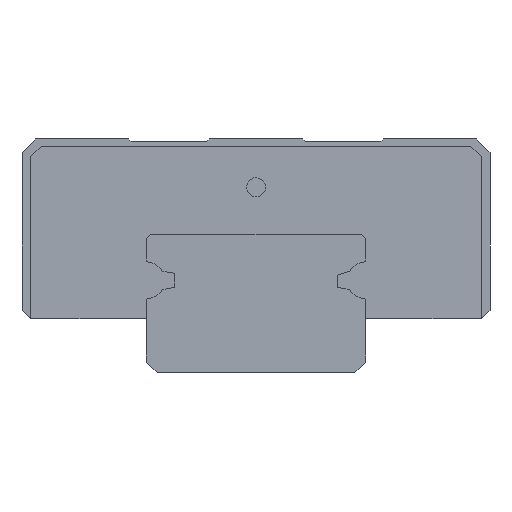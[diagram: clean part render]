
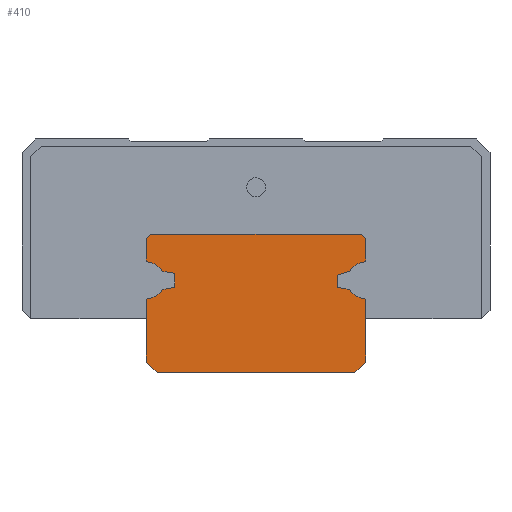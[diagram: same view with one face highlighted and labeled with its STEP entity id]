
A CAD part, front view. The second image highlights one B-rep face of the part: STEP entity #410.
In plain terms, the highlighted planar face has unit normal (0, -1, 0).
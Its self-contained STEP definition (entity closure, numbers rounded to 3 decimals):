
#251=CIRCLE('',#2553,0.15);
#253=CIRCLE('',#2556,1.25);
#255=CIRCLE('',#2559,0.3);
#257=CIRCLE('',#2563,0.1);
#259=CIRCLE('',#2567,0.1);
#261=CIRCLE('',#2571,0.3);
#263=CIRCLE('',#2574,1.25);
#265=CIRCLE('',#2577,0.15);
#280=CIRCLE('',#2598,0.15);
#282=CIRCLE('',#2601,1.25);
#284=CIRCLE('',#2604,0.3);
#286=CIRCLE('',#2608,0.1);
#288=CIRCLE('',#2612,0.1);
#290=CIRCLE('',#2616,0.3);
#292=CIRCLE('',#2619,1.25);
#294=CIRCLE('',#2622,0.15);
#410=ADVANCED_FACE('',(#630),#539,.F.);
#539=PLANE('',#2641);
#630=FACE_OUTER_BOUND('',#748,.T.);
#748=EDGE_LOOP('',(#1091,#1092,#1093,#1094,#1095,#1096,#1097,#1098,#1099,
#1100,#1101,#1102,#1103,#1104,#1105,#1106,#1107,#1108,#1109,#1110,#1111,
#1112,#1113,#1114,#1115,#1116,#1117,#1118,#1119,#1120,#1121,#1122));
#1091=ORIENTED_EDGE('',*,*,#1933,.F.);
#1092=ORIENTED_EDGE('',*,*,#1937,.T.);
#1093=ORIENTED_EDGE('',*,*,#1915,.F.);
#1094=ORIENTED_EDGE('',*,*,#1912,.F.);
#1095=ORIENTED_EDGE('',*,*,#1909,.F.);
#1096=ORIENTED_EDGE('',*,*,#1906,.F.);
#1097=ORIENTED_EDGE('',*,*,#1903,.F.);
#1098=ORIENTED_EDGE('',*,*,#1900,.F.);
#1099=ORIENTED_EDGE('',*,*,#1897,.F.);
#1100=ORIENTED_EDGE('',*,*,#1894,.F.);
#1101=ORIENTED_EDGE('',*,*,#1891,.F.);
#1102=ORIENTED_EDGE('',*,*,#1888,.F.);
#1103=ORIENTED_EDGE('',*,*,#1885,.F.);
#1104=ORIENTED_EDGE('',*,*,#1882,.F.);
#1105=ORIENTED_EDGE('',*,*,#1879,.F.);
#1106=ORIENTED_EDGE('',*,*,#1876,.F.);
#1107=ORIENTED_EDGE('',*,*,#1873,.F.);
#1108=ORIENTED_EDGE('',*,*,#1857,.F.);
#1109=ORIENTED_EDGE('',*,*,#1854,.F.);
#1110=ORIENTED_EDGE('',*,*,#1851,.F.);
#1111=ORIENTED_EDGE('',*,*,#1848,.F.);
#1112=ORIENTED_EDGE('',*,*,#1845,.F.);
#1113=ORIENTED_EDGE('',*,*,#1842,.F.);
#1114=ORIENTED_EDGE('',*,*,#1839,.F.);
#1115=ORIENTED_EDGE('',*,*,#1836,.F.);
#1116=ORIENTED_EDGE('',*,*,#1833,.F.);
#1117=ORIENTED_EDGE('',*,*,#1830,.F.);
#1118=ORIENTED_EDGE('',*,*,#1827,.F.);
#1119=ORIENTED_EDGE('',*,*,#1824,.F.);
#1120=ORIENTED_EDGE('',*,*,#1821,.F.);
#1121=ORIENTED_EDGE('',*,*,#1819,.F.);
#1122=ORIENTED_EDGE('',*,*,#1938,.T.);
#1575=VERTEX_POINT('',#3580);
#1576=VERTEX_POINT('',#3582);
#1577=VERTEX_POINT('',#3586);
#1579=VERTEX_POINT('',#3592);
#1581=VERTEX_POINT('',#3598);
#1583=VERTEX_POINT('',#3604);
#1585=VERTEX_POINT('',#3610);
#1587=VERTEX_POINT('',#3616);
#1589=VERTEX_POINT('',#3622);
#1591=VERTEX_POINT('',#3628);
#1593=VERTEX_POINT('',#3634);
#1595=VERTEX_POINT('',#3640);
#1597=VERTEX_POINT('',#3646);
#1599=VERTEX_POINT('',#3652);
#1601=VERTEX_POINT('',#3658);
#1616=VERTEX_POINT('',#3690);
#1618=VERTEX_POINT('',#3696);
#1620=VERTEX_POINT('',#3702);
#1622=VERTEX_POINT('',#3708);
#1624=VERTEX_POINT('',#3714);
#1626=VERTEX_POINT('',#3720);
#1628=VERTEX_POINT('',#3726);
#1630=VERTEX_POINT('',#3732);
#1632=VERTEX_POINT('',#3738);
#1634=VERTEX_POINT('',#3744);
#1636=VERTEX_POINT('',#3750);
#1638=VERTEX_POINT('',#3756);
#1640=VERTEX_POINT('',#3762);
#1642=VERTEX_POINT('',#3768);
#1644=VERTEX_POINT('',#3774);
#1661=VERTEX_POINT('',#3809);
#1662=VERTEX_POINT('',#3811);
#1819=EDGE_CURVE('',#1575,#1576,#2149,.T.);
#1821=EDGE_CURVE('',#1576,#1577,#251,.T.);
#1824=EDGE_CURVE('',#1577,#1579,#253,.T.);
#1827=EDGE_CURVE('',#1579,#1581,#255,.T.);
#1830=EDGE_CURVE('',#1581,#1583,#2154,.T.);
#1833=EDGE_CURVE('',#1583,#1585,#257,.T.);
#1836=EDGE_CURVE('',#1585,#1587,#2158,.T.);
#1839=EDGE_CURVE('',#1587,#1589,#259,.T.);
#1842=EDGE_CURVE('',#1589,#1591,#2162,.T.);
#1845=EDGE_CURVE('',#1591,#1593,#261,.T.);
#1848=EDGE_CURVE('',#1593,#1595,#263,.T.);
#1851=EDGE_CURVE('',#1595,#1597,#265,.T.);
#1854=EDGE_CURVE('',#1597,#1599,#2168,.T.);
#1857=EDGE_CURVE('',#1599,#1601,#2171,.T.);
#1873=EDGE_CURVE('',#1601,#1616,#2174,.T.);
#1876=EDGE_CURVE('',#1616,#1618,#2177,.T.);
#1879=EDGE_CURVE('',#1618,#1620,#2180,.T.);
#1882=EDGE_CURVE('',#1620,#1622,#280,.T.);
#1885=EDGE_CURVE('',#1622,#1624,#282,.T.);
#1888=EDGE_CURVE('',#1624,#1626,#284,.T.);
#1891=EDGE_CURVE('',#1626,#1628,#2186,.T.);
#1894=EDGE_CURVE('',#1628,#1630,#286,.T.);
#1897=EDGE_CURVE('',#1630,#1632,#2190,.T.);
#1900=EDGE_CURVE('',#1632,#1634,#288,.T.);
#1903=EDGE_CURVE('',#1634,#1636,#2194,.T.);
#1906=EDGE_CURVE('',#1636,#1638,#290,.T.);
#1909=EDGE_CURVE('',#1638,#1640,#292,.T.);
#1912=EDGE_CURVE('',#1640,#1642,#294,.T.);
#1915=EDGE_CURVE('',#1642,#1644,#2200,.T.);
#1933=EDGE_CURVE('',#1661,#1662,#2205,.T.);
#1937=EDGE_CURVE('',#1661,#1644,#2209,.T.);
#1938=EDGE_CURVE('',#1575,#1662,#2210,.T.);
#2149=LINE('',#3581,#2351);
#2154=LINE('',#3603,#2356);
#2158=LINE('',#3615,#2360);
#2162=LINE('',#3627,#2364);
#2168=LINE('',#3651,#2370);
#2171=LINE('',#3657,#2373);
#2174=LINE('',#3689,#2376);
#2177=LINE('',#3695,#2379);
#2180=LINE('',#3701,#2382);
#2186=LINE('',#3725,#2388);
#2190=LINE('',#3737,#2392);
#2194=LINE('',#3749,#2396);
#2200=LINE('',#3773,#2402);
#2205=LINE('',#3810,#2407);
#2209=LINE('',#3817,#2411);
#2210=LINE('',#3818,#2412);
#2351=VECTOR('',#2829,1.);
#2356=VECTOR('',#2854,1.);
#2360=VECTOR('',#2866,1.);
#2364=VECTOR('',#2878,1.);
#2370=VECTOR('',#2904,1.);
#2373=VECTOR('',#2909,1.);
#2376=VECTOR('',#2940,1.);
#2379=VECTOR('',#2945,1.);
#2382=VECTOR('',#2950,1.);
#2388=VECTOR('',#2976,1.);
#2392=VECTOR('',#2988,1.);
#2396=VECTOR('',#3000,1.);
#2402=VECTOR('',#3026,1.);
#2407=VECTOR('',#3059,1.);
#2411=VECTOR('',#3067,1.);
#2412=VECTOR('',#3068,1.);
#2553=AXIS2_PLACEMENT_3D('',#3585,#2833,#2834);
#2556=AXIS2_PLACEMENT_3D('',#3591,#2840,#2841);
#2559=AXIS2_PLACEMENT_3D('',#3597,#2847,#2848);
#2563=AXIS2_PLACEMENT_3D('',#3609,#2859,#2860);
#2567=AXIS2_PLACEMENT_3D('',#3621,#2871,#2872);
#2571=AXIS2_PLACEMENT_3D('',#3633,#2883,#2884);
#2574=AXIS2_PLACEMENT_3D('',#3639,#2890,#2891);
#2577=AXIS2_PLACEMENT_3D('',#3645,#2897,#2898);
#2598=AXIS2_PLACEMENT_3D('',#3707,#2955,#2956);
#2601=AXIS2_PLACEMENT_3D('',#3713,#2962,#2963);
#2604=AXIS2_PLACEMENT_3D('',#3719,#2969,#2970);
#2608=AXIS2_PLACEMENT_3D('',#3731,#2981,#2982);
#2612=AXIS2_PLACEMENT_3D('',#3743,#2993,#2994);
#2616=AXIS2_PLACEMENT_3D('',#3755,#3005,#3006);
#2619=AXIS2_PLACEMENT_3D('',#3761,#3012,#3013);
#2622=AXIS2_PLACEMENT_3D('',#3767,#3019,#3020);
#2641=AXIS2_PLACEMENT_3D('',#3819,#3069,#3070);
#2829=DIRECTION('',(0.,0.,1.));
#2833=DIRECTION('',(0.,1.,0.));
#2834=DIRECTION('',(1.,0.,0.));
#2840=DIRECTION('',(0.,-1.,0.));
#2841=DIRECTION('',(1.,0.,0.));
#2847=DIRECTION('',(0.,1.,0.));
#2848=DIRECTION('',(1.,0.,0.));
#2854=DIRECTION('',(0.985,0.,0.174));
#2859=DIRECTION('',(0.,-1.,0.));
#2860=DIRECTION('',(1.,0.,0.));
#2866=DIRECTION('',(0.,0.,1.));
#2871=DIRECTION('',(0.,-1.,0.));
#2872=DIRECTION('',(1.,0.,0.));
#2878=DIRECTION('',(-0.985,0.,0.174));
#2883=DIRECTION('',(0.,1.,0.));
#2884=DIRECTION('',(1.,0.,0.));
#2890=DIRECTION('',(0.,-1.,0.));
#2891=DIRECTION('',(1.,0.,0.));
#2897=DIRECTION('',(0.,1.,0.));
#2898=DIRECTION('',(1.,0.,0.));
#2904=DIRECTION('',(0.,0.,1.));
#2909=DIRECTION('',(0.707,0.,0.707));
#2940=DIRECTION('',(1.,0.,0.));
#2945=DIRECTION('',(0.707,0.,-0.707));
#2950=DIRECTION('',(0.,0.,-1.));
#2955=DIRECTION('',(0.,1.,0.));
#2956=DIRECTION('',(1.,0.,0.));
#2962=DIRECTION('',(0.,-1.,0.));
#2963=DIRECTION('',(1.,0.,0.));
#2969=DIRECTION('',(0.,1.,0.));
#2970=DIRECTION('',(1.,0.,0.));
#2976=DIRECTION('',(-0.951,0.,-0.309));
#2981=DIRECTION('',(0.,-1.,0.));
#2982=DIRECTION('',(1.,0.,0.));
#2988=DIRECTION('',(0.,0.,-1.));
#2993=DIRECTION('',(0.,-1.,0.));
#2994=DIRECTION('',(1.,0.,0.));
#3000=DIRECTION('',(0.981,0.,-0.192));
#3005=DIRECTION('',(0.,1.,0.));
#3006=DIRECTION('',(1.,0.,0.));
#3012=DIRECTION('',(0.,-1.,0.));
#3013=DIRECTION('',(1.,0.,0.));
#3019=DIRECTION('',(0.,1.,0.));
#3020=DIRECTION('',(1.,0.,0.));
#3026=DIRECTION('',(0.,0.,-1.));
#3059=DIRECTION('',(-1.,0.,0.));
#3067=DIRECTION('',(0.707,0.,0.707));
#3068=DIRECTION('',(0.707,0.,-0.707));
#3069=DIRECTION('',(0.,1.,0.));
#3070=DIRECTION('',(0.,0.,1.));
#3580=CARTESIAN_POINT('',(-7.5,0.,0.75));
#3581=CARTESIAN_POINT('',(-7.5,0.,0.));
#3582=CARTESIAN_POINT('',(-7.5,0.,4.941));
#3585=CARTESIAN_POINT('',(-7.35,0.,4.941));
#3586=CARTESIAN_POINT('',(-7.366,0.,5.091));
#3591=CARTESIAN_POINT('',(-7.5,0.,6.333));
#3592=CARTESIAN_POINT('',(-6.486,0.,5.602));
#3597=CARTESIAN_POINT('',(-6.243,0.,5.427));
#3598=CARTESIAN_POINT('',(-6.295,0.,5.723));
#3603=CARTESIAN_POINT('',(-6.295,0.,5.723));
#3604=CARTESIAN_POINT('',(-5.638,0.,5.838));
#3609=CARTESIAN_POINT('',(-5.656,0.,5.937));
#3610=CARTESIAN_POINT('',(-5.556,0.,5.937));
#3615=CARTESIAN_POINT('',(-5.556,0.,5.937));
#3616=CARTESIAN_POINT('',(-5.556,0.,6.73));
#3621=CARTESIAN_POINT('',(-5.656,0.,6.73));
#3622=CARTESIAN_POINT('',(-5.638,0.,6.828));
#3627=CARTESIAN_POINT('',(-5.638,0.,6.828));
#3628=CARTESIAN_POINT('',(-6.295,0.,6.944));
#3633=CARTESIAN_POINT('',(-6.243,0.,7.24));
#3634=CARTESIAN_POINT('',(-6.486,0.,7.064));
#3639=CARTESIAN_POINT('',(-7.5,0.,6.333));
#3640=CARTESIAN_POINT('',(-7.366,0.,7.576));
#3645=CARTESIAN_POINT('',(-7.35,0.,7.725));
#3646=CARTESIAN_POINT('',(-7.5,0.,7.725));
#3651=CARTESIAN_POINT('',(-7.5,0.,7.725));
#3652=CARTESIAN_POINT('',(-7.5,0.,9.2));
#3657=CARTESIAN_POINT('',(-7.5,0.,9.2));
#3658=CARTESIAN_POINT('',(-7.2,0.,9.5));
#3689=CARTESIAN_POINT('',(-7.2,0.,9.5));
#3690=CARTESIAN_POINT('',(7.2,0.,9.5));
#3695=CARTESIAN_POINT('',(7.2,0.,9.5));
#3696=CARTESIAN_POINT('',(7.5,0.,9.2));
#3701=CARTESIAN_POINT('',(7.5,0.,9.2));
#3702=CARTESIAN_POINT('',(7.5,0.,7.725));
#3707=CARTESIAN_POINT('',(7.35,0.,7.725));
#3708=CARTESIAN_POINT('',(7.366,0.,7.576));
#3713=CARTESIAN_POINT('',(7.5,0.,6.333));
#3714=CARTESIAN_POINT('',(6.474,0.,7.048));
#3719=CARTESIAN_POINT('',(6.228,0.,7.219));
#3720=CARTESIAN_POINT('',(6.321,0.,6.934));
#3725=CARTESIAN_POINT('',(6.321,0.,6.934));
#3726=CARTESIAN_POINT('',(5.625,0.,6.707));
#3731=CARTESIAN_POINT('',(5.656,0.,6.612));
#3732=CARTESIAN_POINT('',(5.556,0.,6.612));
#3737=CARTESIAN_POINT('',(5.556,0.,6.612));
#3738=CARTESIAN_POINT('',(5.556,0.,5.952));
#3743=CARTESIAN_POINT('',(5.656,0.,5.952));
#3744=CARTESIAN_POINT('',(5.636,0.,5.854));
#3749=CARTESIAN_POINT('',(5.636,0.,5.854));
#3750=CARTESIAN_POINT('',(6.298,0.,5.724));
#3755=CARTESIAN_POINT('',(6.241,0.,5.43));
#3756=CARTESIAN_POINT('',(6.484,0.,5.605));
#3761=CARTESIAN_POINT('',(7.5,0.,6.333));
#3762=CARTESIAN_POINT('',(7.366,0.,5.091));
#3767=CARTESIAN_POINT('',(7.35,0.,4.941));
#3768=CARTESIAN_POINT('',(7.5,0.,4.941));
#3773=CARTESIAN_POINT('',(7.5,0.,4.941));
#3774=CARTESIAN_POINT('',(7.5,0.,0.75));
#3809=CARTESIAN_POINT('',(6.75,0.,0.));
#3810=CARTESIAN_POINT('',(7.5,0.,0.));
#3811=CARTESIAN_POINT('',(-6.75,0.,0.));
#3817=CARTESIAN_POINT('',(6.75,0.,0.));
#3818=CARTESIAN_POINT('',(-7.5,0.,0.75));
#3819=CARTESIAN_POINT('',(-7.35,0.,4.941));
